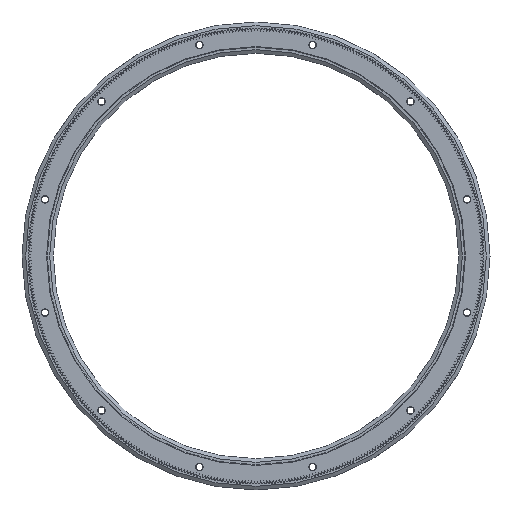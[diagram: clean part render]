
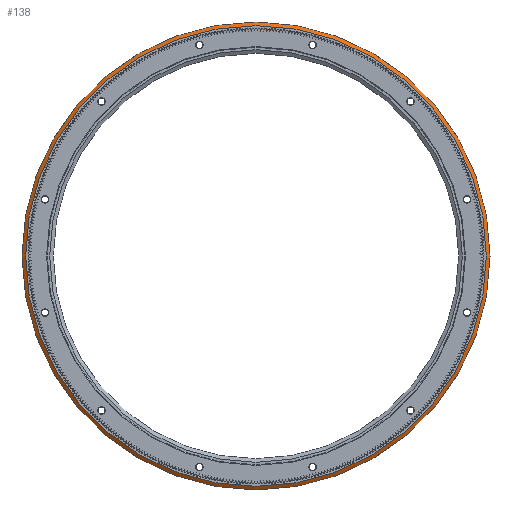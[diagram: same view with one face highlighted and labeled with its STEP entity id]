
A CAD part, front view. The second image highlights one B-rep face of the part: STEP entity #138.
In plain terms, the highlighted conical face has half-angle 55 degrees and reference radius 185.157 mm.
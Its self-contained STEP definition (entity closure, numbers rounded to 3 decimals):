
#138 = ADVANCED_FACE( '', ( #3081, #3082 ), #3083, .T. );
#3081 = FACE_OUTER_BOUND( '', #8767, .T. );
#3082 = FACE_BOUND( '', #8768, .T. );
#3083 = CONICAL_SURFACE( '', #8769, 185.157, 0.96 );
#8767 = EDGE_LOOP( '', ( #15972 ) );
#8768 = EDGE_LOOP( '', ( #15973 ) );
#8769 = AXIS2_PLACEMENT_3D( '', #15974, #15975, #15976 );
#15972 = ORIENTED_EDGE( '', *, *, #38846, .T. );
#15973 = ORIENTED_EDGE( '', *, *, #38847, .F. );
#15974 = CARTESIAN_POINT( '', ( 0., 7.75, 0. ) );
#15975 = DIRECTION( '', ( 0., 1., 0. ) );
#15976 = DIRECTION( '', ( 0., 0., 1. ) );
#38846 = EDGE_CURVE( '', #47668, #47668, #47669, .T. );
#38847 = EDGE_CURVE( '', #47670, #47670, #47671, .T. );
#47668 = VERTEX_POINT( '', #60621 );
#47669 = CIRCLE( '', #60622, 187.937 );
#47670 = VERTEX_POINT( '', #60623 );
#47671 = CIRCLE( '', #60624, 185.157 );
#60621 = CARTESIAN_POINT( '', ( 0., 9.697, -187.937 ) );
#60622 = AXIS2_PLACEMENT_3D( '', #78116, #78117, #78118 );
#60623 = CARTESIAN_POINT( '', ( 0., 7.75, -185.157 ) );
#60624 = AXIS2_PLACEMENT_3D( '', #78119, #78120, #78121 );
#78116 = CARTESIAN_POINT( '', ( 0., 9.697, 0. ) );
#78117 = DIRECTION( '', ( 0., -1., 0. ) );
#78118 = DIRECTION( '', ( 0., 0., -1. ) );
#78119 = CARTESIAN_POINT( '', ( 0., 7.75, 0. ) );
#78120 = DIRECTION( '', ( 0., -1., 0. ) );
#78121 = DIRECTION( '', ( 0., 0., -1. ) );
